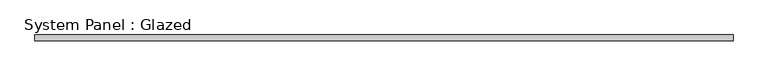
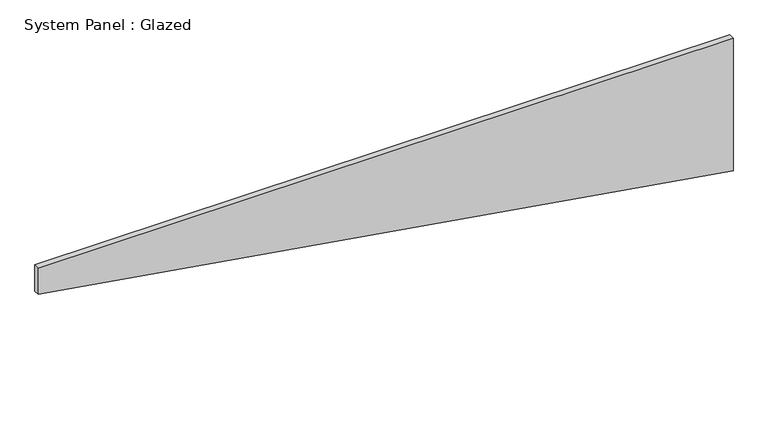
"""IFC4 building model written with IfcOpenShell, lengths in millimetres: plate geometry, System Panel : Glazed."""

from ifc_helpers import new_model, si_unit, frame, origin, place, context, project, spatial, polyline, outline, extrude, source, transform, mapped, element, save


def system_panel_glazed_6fbe35d1(model_context):
    return source(origin(), model_context, "Body", "SweptSolid", [
        extrude(outline(polyline([(488.1376762, -1504.95), (0.0, 1504.95), (607.3816528, 1504.95), (607.3816528, -1504.95), (488.1376762, -1504.95)])), frame((0.0, 19.05, 0.0), z_axis=(0.0, 1.0, 0.0), x_axis=(0.0, 0.0, 1.0)), (0.0, 0.0, 1.0), 25.4),
    ])


if __name__ == "__main__":
    model = new_model("IFC4")
    model_context = context("Model", 3, world=origin())
    ifc_project = project(units=[si_unit("LENGTHUNIT", "METRE", prefix="MILLI")], contexts=[model_context])
    site = spatial("IfcSite", under=ifc_project)
    building = spatial("IfcBuilding", under=site)
    placement = place(None, origin())
    system_panel_glazed_shape = system_panel_glazed_6fbe35d1(model_context)
    element("IfcPlate", 1, ObjectType="System Panel : Glazed", at=placement, inside=building, context=model_context, shape_type="MappedRepresentation", body=[
        mapped(system_panel_glazed_shape, transform((0.0, 0.0, 0.0), x_axis=(1.0, 0.0, 0.0), y_axis=(0.0, 1.0, 0.0), z_axis=(0.0, 0.0, 1.0))),
    ])
    save(model, "model.ifc")
